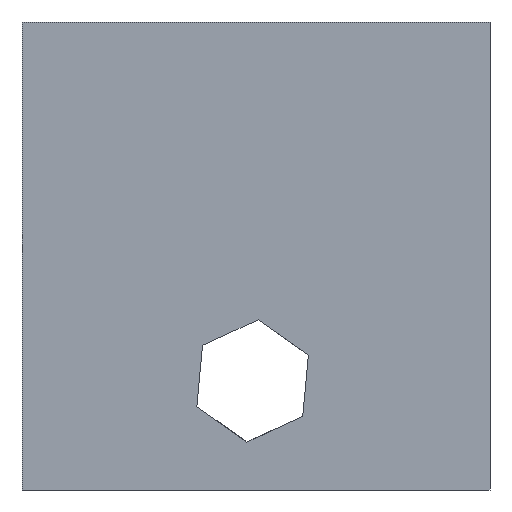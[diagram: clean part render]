
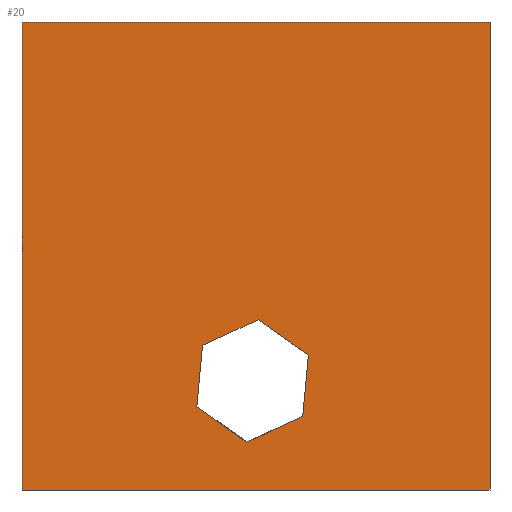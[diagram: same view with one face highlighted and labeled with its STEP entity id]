
A CAD part, front view. The second image highlights one B-rep face of the part: STEP entity #20.
In plain terms, the highlighted planar face has unit normal (0, -1, 0).
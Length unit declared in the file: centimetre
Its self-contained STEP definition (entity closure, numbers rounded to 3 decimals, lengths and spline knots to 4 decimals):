
#7 = VERTEX_POINT ( 'NONE', #112 ) ;
#14 = VERTEX_POINT ( 'NONE', #1069 ) ;
#20 = ADVANCED_FACE ( 'NONE', ( #293, #1078 ), #580, .F. ) ;
#26 = VECTOR ( 'NONE', #1179, 100. ) ;
#28 = EDGE_LOOP ( 'NONE', ( #579, #93, #1137, #475 ) ) ;
#62 = DIRECTION ( 'NONE',  ( 1., 0., 0. ) ) ;
#81 = CARTESIAN_POINT ( 'NONE',  ( 373.55, 0., 178.3176 ) ) ;
#88 = VECTOR ( 'NONE', #1162, 100. ) ;
#93 = ORIENTED_EDGE ( 'NONE', *, *, #1147, .F. ) ;
#97 = CARTESIAN_POINT ( 'NONE',  ( 385.6721, 0., 308.9185 ) ) ;
#111 = DIRECTION ( 'NONE',  ( -0.909, 0., -0.418 ) ) ;
#112 = CARTESIAN_POINT ( 'NONE',  ( 0., 0., 0. ) ) ;
#132 = VECTOR ( 'NONE', #62, 100. ) ;
#158 = CARTESIAN_POINT ( 'NONE',  ( 611.8794, 0., 287.9224 ) ) ;
#166 = CARTESIAN_POINT ( 'NONE',  ( 0., 0., 1000. ) ) ;
#194 = DIRECTION ( 'NONE',  ( -0.092, 0., -0.996 ) ) ;
#222 = VERTEX_POINT ( 'NONE', #158 ) ;
#228 = VERTEX_POINT ( 'NONE', #1020 ) ;
#231 = AXIS2_PLACEMENT_3D ( 'NONE', #983, #316, #404 ) ;
#236 = VERTEX_POINT ( 'NONE', #636 ) ;
#239 = ORIENTED_EDGE ( 'NONE', *, *, #980, .F. ) ;
#242 = DIRECTION ( 'NONE',  ( 1., 0., 0. ) ) ;
#257 = CARTESIAN_POINT ( 'NONE',  ( 0., 0., 0. ) ) ;
#258 = DIRECTION ( 'NONE',  ( 0.909, 0., 0.418 ) ) ;
#270 = EDGE_CURVE ( 'NONE', #228, #7, #830, .T. ) ;
#289 = ORIENTED_EDGE ( 'NONE', *, *, #1055, .F. ) ;
#293 = FACE_BOUND ( 'NONE', #1187, .T. ) ;
#300 = CARTESIAN_POINT ( 'NONE',  ( 599.7573, 0., 157.3215 ) ) ;
#316 = DIRECTION ( 'NONE',  ( 0., 1., 0. ) ) ;
#337 = ORIENTED_EDGE ( 'NONE', *, *, #621, .F. ) ;
#358 = LINE ( 'NONE', #81, #88 ) ;
#364 = ORIENTED_EDGE ( 'NONE', *, *, #567, .F. ) ;
#367 = VERTEX_POINT ( 'NONE', #1068 ) ;
#372 = ORIENTED_EDGE ( 'NONE', *, *, #1168, .F. ) ;
#377 = DIRECTION ( 'NONE',  ( 0., 0., -1. ) ) ;
#404 = DIRECTION ( 'NONE',  ( 0., 0., 1. ) ) ;
#407 = VERTEX_POINT ( 'NONE', #97 ) ;
#424 = ORIENTED_EDGE ( 'NONE', *, *, #461, .F. ) ;
#455 = CARTESIAN_POINT ( 'NONE',  ( 1000., 0., 1000. ) ) ;
#461 = EDGE_CURVE ( 'NONE', #236, #407, #968, .T. ) ;
#470 = LINE ( 'NONE', #455, #862 ) ;
#471 = CARTESIAN_POINT ( 'NONE',  ( 1000., 0., 1000. ) ) ;
#475 = ORIENTED_EDGE ( 'NONE', *, *, #270, .T. ) ;
#501 = DIRECTION ( 'NONE',  ( -0.816, 0., 0.578 ) ) ;
#522 = DIRECTION ( 'NONE',  ( 0., 0., -1. ) ) ;
#523 = VERTEX_POINT ( 'NONE', #471 ) ;
#548 = CARTESIAN_POINT ( 'NONE',  ( 504.8368, 0., 363.7209 ) ) ;
#567 = EDGE_CURVE ( 'NONE', #367, #979, #358, .T. ) ;
#579 = ORIENTED_EDGE ( 'NONE', *, *, #809, .T. ) ;
#580 = PLANE ( 'NONE',  #231 ) ;
#618 = VECTOR ( 'NONE', #194, 100. ) ;
#621 = EDGE_CURVE ( 'NONE', #222, #236, #901, .T. ) ;
#625 = LINE ( 'NONE', #166, #132 ) ;
#636 = CARTESIAN_POINT ( 'NONE',  ( 504.8368, 0., 363.7209 ) ) ;
#638 = LINE ( 'NONE', #257, #941 ) ;
#680 = CARTESIAN_POINT ( 'NONE',  ( 480.5926, 0., 102.5191 ) ) ;
#702 = CARTESIAN_POINT ( 'NONE',  ( 599.7573, 0., 157.3215 ) ) ;
#794 = LINE ( 'NONE', #300, #26 ) ;
#809 = EDGE_CURVE ( 'NONE', #7, #14, #638, .T. ) ;
#830 = LINE ( 'NONE', #1242, #1221 ) ;
#862 = VECTOR ( 'NONE', #377, 100. ) ;
#901 = LINE ( 'NONE', #1015, #1206 ) ;
#941 = VECTOR ( 'NONE', #242, 100. ) ;
#968 = LINE ( 'NONE', #548, #1246 ) ;
#979 = VERTEX_POINT ( 'NONE', #680 ) ;
#980 = EDGE_CURVE ( 'NONE', #1039, #222, #794, .T. ) ;
#983 = CARTESIAN_POINT ( 'NONE',  ( 0., 0., 1000. ) ) ;
#1015 = CARTESIAN_POINT ( 'NONE',  ( 611.8794, 0., 287.9224 ) ) ;
#1020 = CARTESIAN_POINT ( 'NONE',  ( 0., 0., 1000. ) ) ;
#1039 = VERTEX_POINT ( 'NONE', #702 ) ;
#1041 = LINE ( 'NONE', #1146, #1255 ) ;
#1055 = EDGE_CURVE ( 'NONE', #979, #1039, #1041, .T. ) ;
#1060 = CARTESIAN_POINT ( 'NONE',  ( 385.6721, 0., 308.9185 ) ) ;
#1067 = LINE ( 'NONE', #1060, #618 ) ;
#1068 = CARTESIAN_POINT ( 'NONE',  ( 373.55, 0., 178.3176 ) ) ;
#1069 = CARTESIAN_POINT ( 'NONE',  ( 1000., 0., 0. ) ) ;
#1075 = EDGE_CURVE ( 'NONE', #228, #523, #625, .T. ) ;
#1078 = FACE_OUTER_BOUND ( 'NONE', #28, .T. ) ;
#1137 = ORIENTED_EDGE ( 'NONE', *, *, #1075, .F. ) ;
#1146 = CARTESIAN_POINT ( 'NONE',  ( 480.5926, 0., 102.5191 ) ) ;
#1147 = EDGE_CURVE ( 'NONE', #523, #14, #470, .T. ) ;
#1162 = DIRECTION ( 'NONE',  ( 0.816, 0., -0.578 ) ) ;
#1168 = EDGE_CURVE ( 'NONE', #407, #367, #1067, .T. ) ;
#1179 = DIRECTION ( 'NONE',  ( 0.092, 0., 0.996 ) ) ;
#1187 = EDGE_LOOP ( 'NONE', ( #337, #239, #289, #364, #372, #424 ) ) ;
#1206 = VECTOR ( 'NONE', #501, 100. ) ;
#1221 = VECTOR ( 'NONE', #522, 100. ) ;
#1242 = CARTESIAN_POINT ( 'NONE',  ( 0., 0., 1000. ) ) ;
#1246 = VECTOR ( 'NONE', #111, 100. ) ;
#1255 = VECTOR ( 'NONE', #258, 100. ) ;
